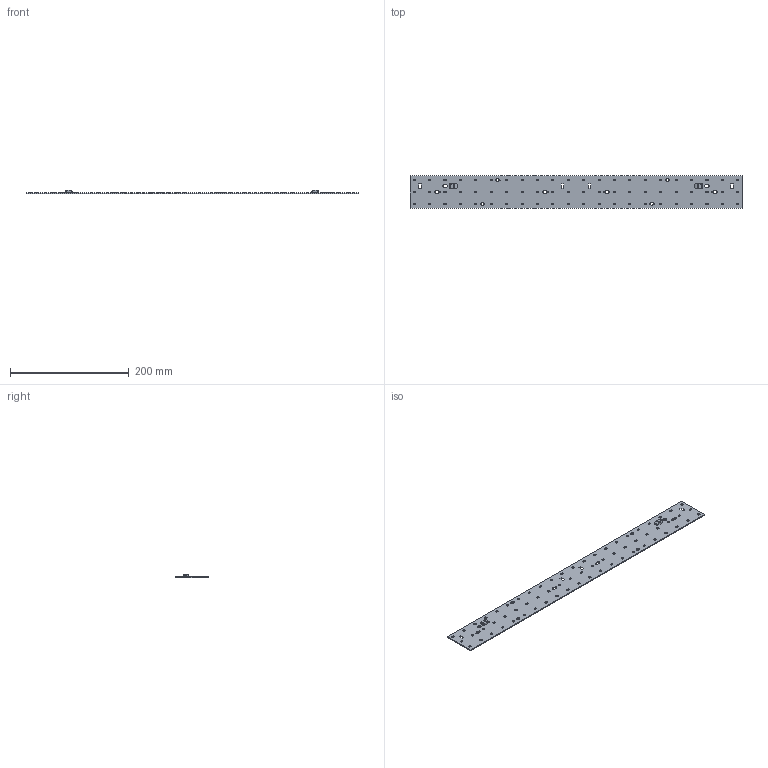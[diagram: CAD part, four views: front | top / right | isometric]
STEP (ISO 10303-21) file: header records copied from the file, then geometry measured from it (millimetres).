
FILE_DESCRIPTION (( 'STEP AP214' ), '1' );
FILE_NAME ('4206252swm000.step', '2020-04-22T08:48:09', ( 'OSRAM' ), ( 'OSRAM' ), 'SwSTEP 2.0', 'SolidWorks 2017', '' );
FILE_SCHEMA (( 'AUTOMOTIVE_DESIGN' ));
Length unit declared in the file: millimetre
Products named in the file (3): 4210275swm000; 4206590swm000; 4206252swm000
Assembly tree (2 placements, depth 2):
  4206252swm000
    4206590swm000
    4210275swm000
Bounding box: 560 x 55 x 5.55 mm (x, y, z)
Volume: 49626.4 mm3; surface area: 65708 mm2
Topology: 69 solids, 69 shells, 4478 faces, 12380 edges, 8116 vertices
Faces by surface type: plane 2932, cylinder 1506, bspline 40
Entity records: 192633 total; most frequent: CARTESIAN_POINT 27539, ORIENTED_EDGE 24752, DIRECTION 23986, EDGE_CURVE 12376, LINE 9268, VECTOR 9268, VERTEX_POINT 8116, AXIS2_PLACEMENT_3D 7359
